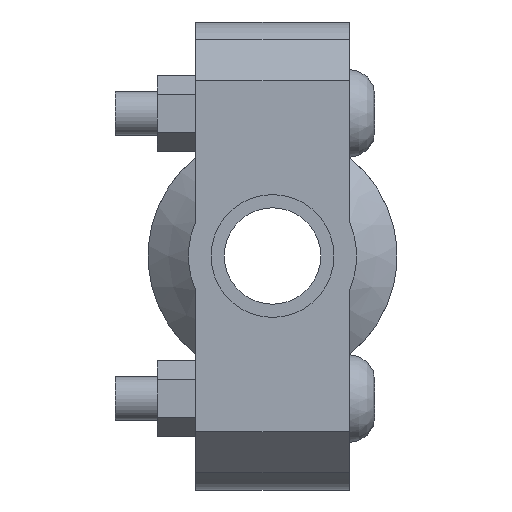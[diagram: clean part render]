
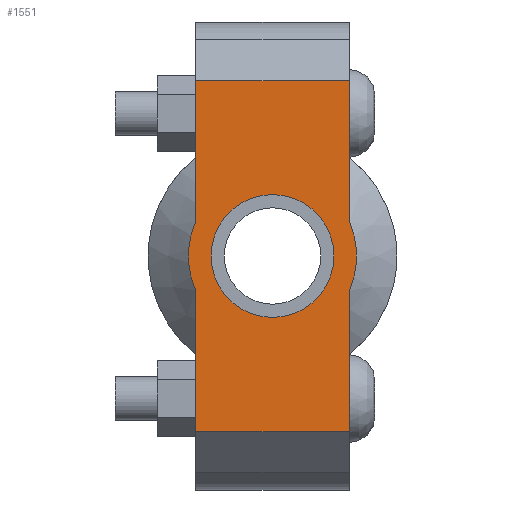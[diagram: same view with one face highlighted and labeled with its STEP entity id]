
A CAD part, left-side view. The second image highlights one B-rep face of the part: STEP entity #1551.
In plain terms, the highlighted planar face has unit normal (-1, 0, 0) as drawn and (0, 0, 1) by its records, which use the part's own axes.
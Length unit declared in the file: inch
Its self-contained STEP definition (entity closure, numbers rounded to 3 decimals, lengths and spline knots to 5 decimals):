
#162=LINE('',#2665,#257);
#177=LINE('',#2724,#272);
#185=LINE('',#2754,#280);
#187=LINE('',#2757,#282);
#188=LINE('',#2762,#283);
#189=LINE('',#2763,#284);
#257=VECTOR('',#2151,0.3937);
#272=VECTOR('',#2186,0.3937);
#280=VECTOR('',#2206,0.3937);
#282=VECTOR('',#2210,0.3937);
#283=VECTOR('',#2215,0.3937);
#284=VECTOR('',#2216,0.3937);
#344=FACE_BOUND('',#503,.T.);
#404=FACE_OUTER_BOUND('',#502,.T.);
#502=EDGE_LOOP('',(#1246,#1247,#1248,#1249,#1250,#1251,#1252,#1253));
#503=EDGE_LOOP('',(#1254));
#608=CIRCLE('',#1814,0.719);
#609=CIRCLE('',#1815,0.719);
#610=CIRCLE('',#1816,0.525);
#717=VERTEX_POINT('',#2662);
#718=VERTEX_POINT('',#2664);
#739=VERTEX_POINT('',#2719);
#740=VERTEX_POINT('',#2723);
#749=VERTEX_POINT('',#2749);
#750=VERTEX_POINT('',#2753);
#751=VERTEX_POINT('',#2759);
#752=VERTEX_POINT('',#2761);
#753=VERTEX_POINT('',#2765);
#887=EDGE_CURVE('',#718,#717,#162,.T.);
#912=EDGE_CURVE('',#740,#739,#177,.T.);
#925=EDGE_CURVE('',#750,#749,#185,.T.);
#927=EDGE_CURVE('',#750,#717,#187,.T.);
#928=EDGE_CURVE('',#749,#751,#608,.T.);
#929=EDGE_CURVE('',#751,#752,#188,.T.);
#930=EDGE_CURVE('',#740,#752,#189,.T.);
#931=EDGE_CURVE('',#739,#718,#609,.T.);
#932=EDGE_CURVE('',#753,#753,#610,.T.);
#1246=ORIENTED_EDGE('',*,*,#927,.F.);
#1247=ORIENTED_EDGE('',*,*,#925,.T.);
#1248=ORIENTED_EDGE('',*,*,#928,.T.);
#1249=ORIENTED_EDGE('',*,*,#929,.T.);
#1250=ORIENTED_EDGE('',*,*,#930,.F.);
#1251=ORIENTED_EDGE('',*,*,#912,.T.);
#1252=ORIENTED_EDGE('',*,*,#931,.T.);
#1253=ORIENTED_EDGE('',*,*,#887,.T.);
#1254=ORIENTED_EDGE('',*,*,#932,.T.);
#1403=PLANE('',#1813);
#1551=ADVANCED_FACE('',(#404,#344),#1403,.T.);
#1813=AXIS2_PLACEMENT_3D('',#2758,#2211,#2212);
#1814=AXIS2_PLACEMENT_3D('',#2760,#2213,#2214);
#1815=AXIS2_PLACEMENT_3D('',#2764,#2217,#2218);
#1816=AXIS2_PLACEMENT_3D('',#2766,#2219,#2220);
#2151=DIRECTION('',(1.,0.,0.));
#2186=DIRECTION('',(1.,0.,0.));
#2206=DIRECTION('',(-1.,0.,0.));
#2210=DIRECTION('',(0.,-1.,0.));
#2211=DIRECTION('center_axis',(0.,0.,1.));
#2212=DIRECTION('ref_axis',(-1.,0.,0.));
#2213=DIRECTION('center_axis',(0.,0.,1.));
#2214=DIRECTION('ref_axis',(1.,0.,0.));
#2215=DIRECTION('',(-1.,0.,0.));
#2216=DIRECTION('',(0.,1.,0.));
#2217=DIRECTION('center_axis',(0.,0.,1.));
#2218=DIRECTION('ref_axis',(1.,0.,0.));
#2219=DIRECTION('center_axis',(0.,0.,-1.));
#2220=DIRECTION('ref_axis',(1.,0.,0.));
#2662=CARTESIAN_POINT('',(1.5,-0.656,0.875));
#2664=CARTESIAN_POINT('',(0.29432,-0.656,0.875));
#2665=CARTESIAN_POINT('',(-2.,-0.656,0.875));
#2719=CARTESIAN_POINT('',(-0.29432,-0.656,0.875));
#2723=CARTESIAN_POINT('',(-1.5,-0.656,0.875));
#2724=CARTESIAN_POINT('',(-2.,-0.656,0.875));
#2749=CARTESIAN_POINT('',(0.29432,0.656,0.875));
#2753=CARTESIAN_POINT('',(1.5,0.656,0.875));
#2754=CARTESIAN_POINT('',(2.,0.656,0.875));
#2757=CARTESIAN_POINT('',(1.5,-0.328,0.875));
#2758=CARTESIAN_POINT('Origin',(0.,0.,
0.875));
#2759=CARTESIAN_POINT('',(-0.29432,0.656,0.875));
#2760=CARTESIAN_POINT('Origin',(0.,0.,0.875));
#2761=CARTESIAN_POINT('',(-1.5,0.656,0.875));
#2762=CARTESIAN_POINT('',(2.,0.656,0.875));
#2763=CARTESIAN_POINT('',(-1.5,0.328,0.875));
#2764=CARTESIAN_POINT('Origin',(0.,0.,0.875));
#2765=CARTESIAN_POINT('',(-0.525,0.,0.875));
#2766=CARTESIAN_POINT('Origin',(0.,0.,0.875));
